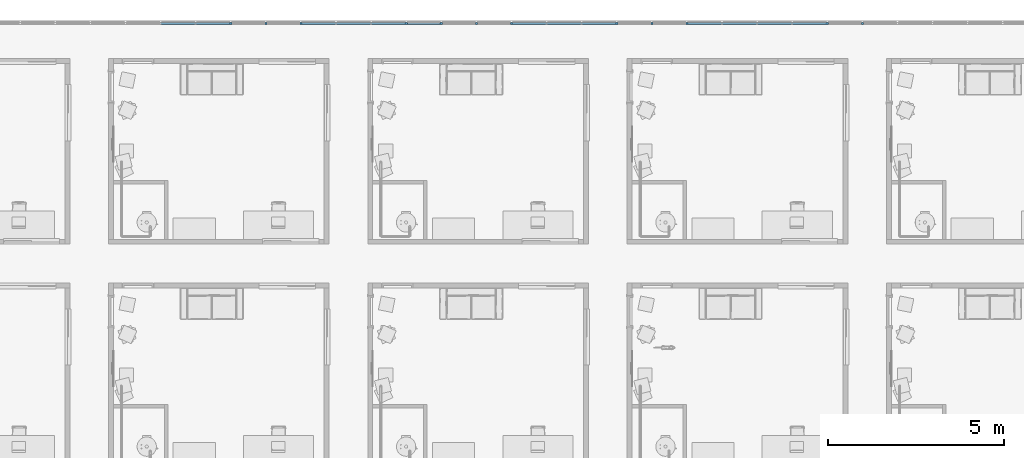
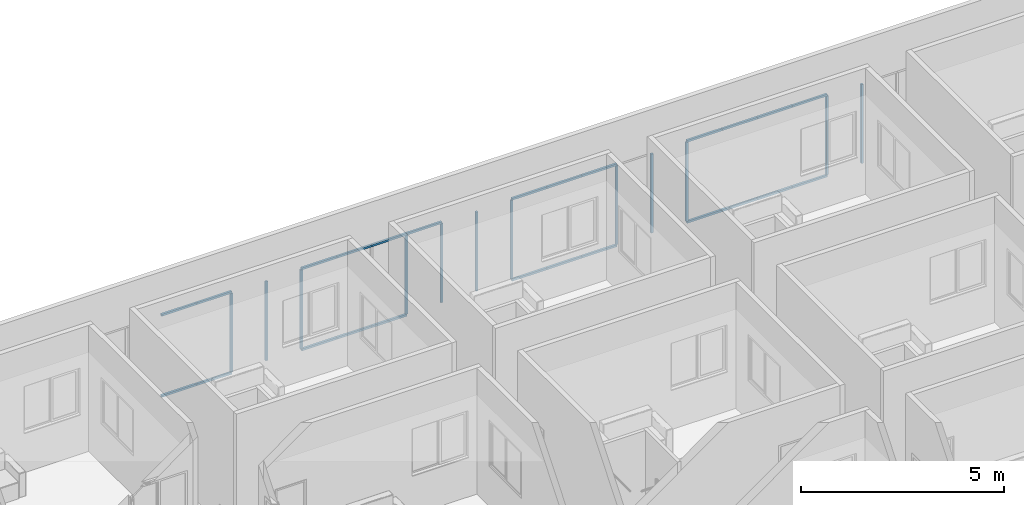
# One storey, part 3 of 71: 37 members, 1 element without a shape of its own.
"""IFC4 building model written with IfcOpenShell, lengths in centimetres."""

from ifc_helpers import new_model, entity, si_unit, converted_unit, derived_unit, direction, frame, origin, place, context, subcontext, project, spatial, indexed_curve, outline, extrude, source, transform, mapped, material, type_object, type_shapes, element, aggregate, save


model = new_model("IFC4")

# Units and contexts
model_context = context("Model", 3, precision=0.001, world=origin(), true_north=direction((6.123233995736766e-17, 1.0)))
body_context = subcontext(model_context, "Body", "Model", "MODEL_VIEW")
ifc_project = project(units=[si_unit("LENGTHUNIT", "METRE", prefix="CENTI"), si_unit("AREAUNIT", "SQUARE_METRE"), si_unit("VOLUMEUNIT", "CUBIC_METRE"), derived_unit("THERMALTRANSMITTANCEUNIT", [(si_unit("MASSUNIT", "GRAM", prefix="KILO"), 1), (si_unit("THERMODYNAMICTEMPERATUREUNIT", "KELVIN"), -1), (si_unit("TIMEUNIT", "SECOND"), -3)]), converted_unit("PLANEANGLEUNIT", "DEGREE", entity("IfcPlaneAngleMeasure", 0.017453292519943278), si_unit("PLANEANGLEUNIT", "RADIAN"), dimensions=[0, 0, 0, 0, 0, 0, 0]), derived_unit("MASSDENSITYUNIT", [(si_unit("MASSUNIT", "GRAM", prefix="KILO"), 1), (si_unit("LENGTHUNIT", "METRE"), -3)]), derived_unit("VAPORPERMEABILITYUNIT", [(si_unit("LENGTHUNIT", "METRE"), -1), (si_unit("TIMEUNIT", "SECOND"), 1)]), derived_unit("USERDEFINED", [(si_unit("MASSUNIT", "GRAM", prefix="KILO"), 1), (si_unit("TIMEUNIT", "SECOND"), -3), (si_unit("LENGTHUNIT", "METRE"), 3), (si_unit("ELECTRICCURRENTUNIT", "AMPERE"), -2)]), derived_unit("SPECIFICHEATCAPACITYUNIT", [(si_unit("THERMODYNAMICTEMPERATUREUNIT", "KELVIN"), -1), (si_unit("LENGTHUNIT", "METRE"), 2), (si_unit("TIMEUNIT", "SECOND"), -2)]), derived_unit("THERMALCONDUCTANCEUNIT", [(si_unit("MASSUNIT", "GRAM", prefix="KILO"), 1), (si_unit("THERMODYNAMICTEMPERATUREUNIT", "KELVIN"), -1), (si_unit("TIMEUNIT", "SECOND"), -3), (si_unit("LENGTHUNIT", "METRE"), 1)]), si_unit("PRESSUREUNIT", "PASCAL"), derived_unit("MODULUSOFELASTICITYUNIT", [(si_unit("MASSUNIT", "GRAM", prefix="KILO"), 1), (si_unit("LENGTHUNIT", "METRE"), -1), (si_unit("TIMEUNIT", "SECOND"), -2)]), derived_unit("THERMALEXPANSIONCOEFFICIENTUNIT", [(si_unit("THERMODYNAMICTEMPERATUREUNIT", "KELVIN"), -1)])], contexts=[model_context])

# Site, building, storey
site_placement = place(None, origin())
site = spatial("IfcSite", under=ifc_project, at=site_placement, Name="Default", CompositionType="ELEMENT")
building_placement = place(site_placement, origin())
building = spatial("IfcBuilding", under=site, at=building_placement, Name="IDS Escape Game Building", CompositionType="ELEMENT")
storey_placement = place(building_placement, frame((0.0, 0.0, 400.0)))
storey = spatial("IfcBuildingStorey", under=building, at=storey_placement, Name="01_First Floor", CompositionType="ELEMENT", Elevation=399.99999999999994)

# Curtain wall, members
curtain_wall_type = type_object("IfcCurtainWallType", Name="Curtain Wall:ARC_31.3_CWA_LIB_bandraam vast 100cm - profiel 60x60_gen_BERSnl", PredefinedType="NOTDEFINED")
curtain_wall_placement = place(storey_placement, frame((0.0, 0.0, -400.0)))
curtain_wall = element("IfcCurtainWall", 1, at=curtain_wall_placement, inside=storey, type_object=curtain_wall_type, Name="Curtain Wall:ARC_31.3_CWA_LIB_bandraam vast 100cm - profiel 60x60_gen_BERSnl", ObjectType="Curtain Wall:ARC_31.3_CWA_LIB_bandraam vast 100cm - profiel 60x60_gen_BERSnl", PredefinedType="NOTDEFINED")
ifc_material = material(Name="<Unnamed>")
member_type_1 = type_object("IfcMemberType", Name="Rectangular Mullion:30-_Stijl_Rechthoek_Midden_B60xD60", PredefinedType="MULLION", material=ifc_material)
shared_shape_1 = source(origin(), body_context, "Body", "SweptSolid", [
    extrude(outline(indexed_curve([(-3.0, -3.0), (3.0, -3.0), (3.0, 3.0), (-3.0, 3.0), (-3.0, -3.0)], self_intersect=False)), frame((-3.0, 3.0, -99.84313725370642), z_axis=(0.0, 0.0, 1.0), x_axis=(-1.0, 0.0, 0.0)), (0.0, 0.0, 1.0), 99.84313725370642),
])
type_shapes(member_type_1, [shared_shape_1])
member_1_placement = place(curtain_wall_placement, frame((1717.176470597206, 3182.0, 650.0), z_axis=(1.0, 0.0, 0.0), x_axis=(0.0, 0.0, 1.0)))
member_1 = element("IfcMember", 2, at=member_1_placement, type_object=member_type_1, material=ifc_material, Name="Rectangular Mullion:30-_Stijl_Rechthoek_Midden_B60xD60", ObjectType="Rectangular Mullion:30-_Stijl_Rechthoek_Midden_B60xD60", PredefinedType="MULLION", context=body_context, shape_type="MappedRepresentation", body=[
    mapped(shared_shape_1, transform((0.0, 0.0, 0.0), scale=1.0)),
])
member_2_placement = place(curtain_wall_placement, frame((1817.0196078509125, 3182.0, 650.0), z_axis=(1.0, 0.0, 0.0), x_axis=(0.0, 0.0, 1.0)))
member_2 = element("IfcMember", 3, at=member_2_placement, type_object=member_type_1, material=ifc_material, Name="Rectangular Mullion:30-_Stijl_Rechthoek_Midden_B60xD60", ObjectType="Rectangular Mullion:30-_Stijl_Rechthoek_Midden_B60xD60", PredefinedType="MULLION", context=body_context, shape_type="MappedRepresentation", body=[
    mapped(shared_shape_1, transform((0.0, 0.0, 0.0), scale=1.0)),
])
member_3_placement = place(curtain_wall_placement, frame((2116.549019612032, 3182.0, 650.0), z_axis=(1.0, 0.0, 0.0), x_axis=(0.0, 0.0, 1.0)))
member_3 = element("IfcMember", 4, at=member_3_placement, type_object=member_type_1, material=ifc_material, Name="Rectangular Mullion:30-_Stijl_Rechthoek_Midden_B60xD60", ObjectType="Rectangular Mullion:30-_Stijl_Rechthoek_Midden_B60xD60", PredefinedType="MULLION", context=body_context, shape_type="MappedRepresentation", body=[
    mapped(shared_shape_1, transform((0.0, 0.0, 0.0), scale=1.0)),
])
member_4_placement = place(curtain_wall_placement, frame((2216.392156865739, 3182.0, 650.0), z_axis=(1.0, 0.0, 0.0), x_axis=(0.0, 0.0, 1.0)))
member_4 = element("IfcMember", 5, at=member_4_placement, type_object=member_type_1, material=ifc_material, Name="Rectangular Mullion:30-_Stijl_Rechthoek_Midden_B60xD60", ObjectType="Rectangular Mullion:30-_Stijl_Rechthoek_Midden_B60xD60", PredefinedType="MULLION", context=body_context, shape_type="MappedRepresentation", body=[
    mapped(shared_shape_1, transform((0.0, 0.0, 0.0), scale=1.0)),
])
member_5_placement = place(curtain_wall_placement, frame((2316.235294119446, 3182.0, 650.0), z_axis=(1.0, 0.0, 0.0), x_axis=(0.0, 0.0, 1.0)))
member_5 = element("IfcMember", 6, at=member_5_placement, type_object=member_type_1, material=ifc_material, Name="Rectangular Mullion:30-_Stijl_Rechthoek_Midden_B60xD60", ObjectType="Rectangular Mullion:30-_Stijl_Rechthoek_Midden_B60xD60", PredefinedType="MULLION", context=body_context, shape_type="MappedRepresentation", body=[
    mapped(shared_shape_1, transform((0.0, 0.0, 0.0), scale=1.0)),
])
member_6_placement = place(curtain_wall_placement, frame((2416.0784313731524, 3182.0, 650.0), z_axis=(1.0, 0.0, 0.0), x_axis=(0.0, 0.0, 1.0)))
member_6 = element("IfcMember", 7, at=member_6_placement, type_object=member_type_1, material=ifc_material, Name="Rectangular Mullion:30-_Stijl_Rechthoek_Midden_B60xD60", ObjectType="Rectangular Mullion:30-_Stijl_Rechthoek_Midden_B60xD60", PredefinedType="MULLION", context=body_context, shape_type="MappedRepresentation", body=[
    mapped(shared_shape_1, transform((0.0, 0.0, 0.0), scale=1.0)),
])
member_7_placement = place(curtain_wall_placement, frame((2715.6078431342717, 3182.0, 650.0), z_axis=(1.0, 0.0, 0.0), x_axis=(0.0, 0.0, 1.0)))
member_7 = element("IfcMember", 8, at=member_7_placement, type_object=member_type_1, material=ifc_material, Name="Rectangular Mullion:30-_Stijl_Rechthoek_Midden_B60xD60", ObjectType="Rectangular Mullion:30-_Stijl_Rechthoek_Midden_B60xD60", PredefinedType="MULLION", context=body_context, shape_type="MappedRepresentation", body=[
    mapped(shared_shape_1, transform((0.0, 0.0, 0.0), scale=1.0)),
])
member_8_placement = place(curtain_wall_placement, frame((2815.4509803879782, 3182.0, 650.0), z_axis=(1.0, 0.0, 0.0), x_axis=(0.0, 0.0, 1.0)))
member_8 = element("IfcMember", 9, at=member_8_placement, type_object=member_type_1, material=ifc_material, Name="Rectangular Mullion:30-_Stijl_Rechthoek_Midden_B60xD60", ObjectType="Rectangular Mullion:30-_Stijl_Rechthoek_Midden_B60xD60", PredefinedType="MULLION", context=body_context, shape_type="MappedRepresentation", body=[
    mapped(shared_shape_1, transform((0.0, 0.0, 0.0), scale=1.0)),
])
member_9_placement = place(curtain_wall_placement, frame((2915.294117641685, 3182.0, 650.0), z_axis=(1.0, 0.0, 0.0), x_axis=(0.0, 0.0, 1.0)))
member_9 = element("IfcMember", 10, at=member_9_placement, type_object=member_type_1, material=ifc_material, Name="Rectangular Mullion:30-_Stijl_Rechthoek_Midden_B60xD60", ObjectType="Rectangular Mullion:30-_Stijl_Rechthoek_Midden_B60xD60", PredefinedType="MULLION", context=body_context, shape_type="MappedRepresentation", body=[
    mapped(shared_shape_1, transform((0.0, 0.0, 0.0), scale=1.0)),
])
member_10_placement = place(curtain_wall_placement, frame((3214.8235294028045, 3182.0, 650.0), z_axis=(1.0, 0.0, 0.0), x_axis=(0.0, 0.0, 1.0)))
member_10 = element("IfcMember", 11, at=member_10_placement, type_object=member_type_1, material=ifc_material, Name="Rectangular Mullion:30-_Stijl_Rechthoek_Midden_B60xD60", ObjectType="Rectangular Mullion:30-_Stijl_Rechthoek_Midden_B60xD60", PredefinedType="MULLION", context=body_context, shape_type="MappedRepresentation", body=[
    mapped(shared_shape_1, transform((0.0, 0.0, 0.0), scale=1.0)),
])
member_11_placement = place(curtain_wall_placement, frame((3314.666666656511, 3182.0, 650.0), z_axis=(1.0, 0.0, 0.0), x_axis=(0.0, 0.0, 1.0)))
member_11 = element("IfcMember", 12, at=member_11_placement, type_object=member_type_1, material=ifc_material, Name="Rectangular Mullion:30-_Stijl_Rechthoek_Midden_B60xD60", ObjectType="Rectangular Mullion:30-_Stijl_Rechthoek_Midden_B60xD60", PredefinedType="MULLION", context=body_context, shape_type="MappedRepresentation", body=[
    mapped(shared_shape_1, transform((0.0, 0.0, 0.0), scale=1.0)),
])
member_12_placement = place(curtain_wall_placement, frame((3414.509803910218, 3182.0, 650.0), z_axis=(1.0, 0.0, 0.0), x_axis=(0.0, 0.0, 1.0)))
member_12 = element("IfcMember", 13, at=member_12_placement, type_object=member_type_1, material=ifc_material, Name="Rectangular Mullion:30-_Stijl_Rechthoek_Midden_B60xD60", ObjectType="Rectangular Mullion:30-_Stijl_Rechthoek_Midden_B60xD60", PredefinedType="MULLION", context=body_context, shape_type="MappedRepresentation", body=[
    mapped(shared_shape_1, transform((0.0, 0.0, 0.0), scale=1.0)),
])
member_13_placement = place(curtain_wall_placement, frame((3514.3529411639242, 3182.0, 650.0), z_axis=(1.0, 0.0, 0.0), x_axis=(0.0, 0.0, 1.0)))
member_13 = element("IfcMember", 14, at=member_13_placement, type_object=member_type_1, material=ifc_material, Name="Rectangular Mullion:30-_Stijl_Rechthoek_Midden_B60xD60", ObjectType="Rectangular Mullion:30-_Stijl_Rechthoek_Midden_B60xD60", PredefinedType="MULLION", context=body_context, shape_type="MappedRepresentation", body=[
    mapped(shared_shape_1, transform((0.0, 0.0, 0.0), scale=1.0)),
])
member_type_2 = type_object("IfcMemberType", Name="Rectangular Mullion:30-_Stijl_Rechthoek_Midden_B60xD60", PredefinedType="MULLION", material=ifc_material)
shared_shape_2 = source(origin(), body_context, "Body", "SweptSolid", [
    extrude(outline(indexed_curve([(-3.0, -3.0), (3.0, -3.0), (3.0, 3.0), (-3.0, 3.0), (-3.0, -3.0)], self_intersect=False)), frame((-3.0, 3.0, -99.84313725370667), z_axis=(0.0, 0.0, 1.0), x_axis=(-1.0, 0.0, 0.0)), (0.0, 0.0, 1.0), 99.84313725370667),
])
type_shapes(member_type_2, [shared_shape_2])
member_14_placement = place(curtain_wall_placement, frame((1617.3333333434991, 3182.0, 400.0), z_axis=(-1.0, 0.0, 0.0), x_axis=(0.0, 0.0, -1.0)))
member_14 = element("IfcMember", 15, at=member_14_placement, type_object=member_type_2, material=ifc_material, Name="Rectangular Mullion:30-_Stijl_Rechthoek_Midden_B60xD60", ObjectType="Rectangular Mullion:30-_Stijl_Rechthoek_Midden_B60xD60", PredefinedType="MULLION", context=body_context, shape_type="MappedRepresentation", body=[
    mapped(shared_shape_2, transform((0.0, 0.0, 0.0), scale=1.0)),
])
member_15_placement = place(curtain_wall_placement, frame((1717.176470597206, 3182.0, 400.0), z_axis=(-1.0, 0.0, 0.0), x_axis=(0.0, 0.0, -1.0)))
member_15 = element("IfcMember", 16, at=member_15_placement, type_object=member_type_2, material=ifc_material, Name="Rectangular Mullion:30-_Stijl_Rechthoek_Midden_B60xD60", ObjectType="Rectangular Mullion:30-_Stijl_Rechthoek_Midden_B60xD60", PredefinedType="MULLION", context=body_context, shape_type="MappedRepresentation", body=[
    mapped(shared_shape_2, transform((0.0, 0.0, 0.0), scale=1.0)),
])
member_16_placement = place(curtain_wall_placement, frame((2016.7058823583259, 3182.0, 400.0), z_axis=(-1.0, 0.0, 0.0), x_axis=(0.0, 0.0, -1.0)))
member_16 = element("IfcMember", 17, at=member_16_placement, type_object=member_type_2, material=ifc_material, Name="Rectangular Mullion:30-_Stijl_Rechthoek_Midden_B60xD60", ObjectType="Rectangular Mullion:30-_Stijl_Rechthoek_Midden_B60xD60", PredefinedType="MULLION", context=body_context, shape_type="MappedRepresentation", body=[
    mapped(shared_shape_2, transform((0.0, 0.0, 0.0), scale=1.0)),
])
member_17_placement = place(curtain_wall_placement, frame((2116.5490196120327, 3182.0, 400.0), z_axis=(-1.0, 0.0, 0.0), x_axis=(0.0, 0.0, -1.0)))
member_17 = element("IfcMember", 18, at=member_17_placement, type_object=member_type_2, material=ifc_material, Name="Rectangular Mullion:30-_Stijl_Rechthoek_Midden_B60xD60", ObjectType="Rectangular Mullion:30-_Stijl_Rechthoek_Midden_B60xD60", PredefinedType="MULLION", context=body_context, shape_type="MappedRepresentation", body=[
    mapped(shared_shape_2, transform((0.0, 0.0, 0.0), scale=1.0)),
])
member_18_placement = place(curtain_wall_placement, frame((2216.3921568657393, 3182.0, 400.0), z_axis=(-1.0, 0.0, 0.0), x_axis=(0.0, 0.0, -1.0)))
member_18 = element("IfcMember", 19, at=member_18_placement, type_object=member_type_2, material=ifc_material, Name="Rectangular Mullion:30-_Stijl_Rechthoek_Midden_B60xD60", ObjectType="Rectangular Mullion:30-_Stijl_Rechthoek_Midden_B60xD60", PredefinedType="MULLION", context=body_context, shape_type="MappedRepresentation", body=[
    mapped(shared_shape_2, transform((0.0, 0.0, 0.0), scale=1.0)),
])
member_19_placement = place(curtain_wall_placement, frame((2615.764705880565, 3182.0, 400.0), z_axis=(-1.0, 0.0, 0.0), x_axis=(0.0, 0.0, -1.0)))
member_19 = element("IfcMember", 20, at=member_19_placement, type_object=member_type_2, material=ifc_material, Name="Rectangular Mullion:30-_Stijl_Rechthoek_Midden_B60xD60", ObjectType="Rectangular Mullion:30-_Stijl_Rechthoek_Midden_B60xD60", PredefinedType="MULLION", context=body_context, shape_type="MappedRepresentation", body=[
    mapped(shared_shape_2, transform((0.0, 0.0, 0.0), scale=1.0)),
])
member_20_placement = place(curtain_wall_placement, frame((2715.6078431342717, 3182.0, 400.0), z_axis=(-1.0, 0.0, 0.0), x_axis=(0.0, 0.0, -1.0)))
member_20 = element("IfcMember", 21, at=member_20_placement, type_object=member_type_2, material=ifc_material, Name="Rectangular Mullion:30-_Stijl_Rechthoek_Midden_B60xD60", ObjectType="Rectangular Mullion:30-_Stijl_Rechthoek_Midden_B60xD60", PredefinedType="MULLION", context=body_context, shape_type="MappedRepresentation", body=[
    mapped(shared_shape_2, transform((0.0, 0.0, 0.0), scale=1.0)),
])
member_21_placement = place(curtain_wall_placement, frame((2815.4509803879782, 3182.0, 400.0), z_axis=(-1.0, 0.0, 0.0), x_axis=(0.0, 0.0, -1.0)))
member_21 = element("IfcMember", 22, at=member_21_placement, type_object=member_type_2, material=ifc_material, Name="Rectangular Mullion:30-_Stijl_Rechthoek_Midden_B60xD60", ObjectType="Rectangular Mullion:30-_Stijl_Rechthoek_Midden_B60xD60", PredefinedType="MULLION", context=body_context, shape_type="MappedRepresentation", body=[
    mapped(shared_shape_2, transform((0.0, 0.0, 0.0), scale=1.0)),
])
member_22_placement = place(curtain_wall_placement, frame((3114.980392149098, 3182.0, 400.0), z_axis=(-1.0, 0.0, 0.0), x_axis=(0.0, 0.0, -1.0)))
member_22 = element("IfcMember", 23, at=member_22_placement, type_object=member_type_2, material=ifc_material, Name="Rectangular Mullion:30-_Stijl_Rechthoek_Midden_B60xD60", ObjectType="Rectangular Mullion:30-_Stijl_Rechthoek_Midden_B60xD60", PredefinedType="MULLION", context=body_context, shape_type="MappedRepresentation", body=[
    mapped(shared_shape_2, transform((0.0, 0.0, 0.0), scale=1.0)),
])
member_23_placement = place(curtain_wall_placement, frame((3214.8235294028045, 3182.0, 400.0), z_axis=(-1.0, 0.0, 0.0), x_axis=(0.0, 0.0, -1.0)))
member_23 = element("IfcMember", 24, at=member_23_placement, type_object=member_type_2, material=ifc_material, Name="Rectangular Mullion:30-_Stijl_Rechthoek_Midden_B60xD60", ObjectType="Rectangular Mullion:30-_Stijl_Rechthoek_Midden_B60xD60", PredefinedType="MULLION", context=body_context, shape_type="MappedRepresentation", body=[
    mapped(shared_shape_2, transform((0.0, 0.0, 0.0), scale=1.0)),
])
member_24_placement = place(curtain_wall_placement, frame((3314.666666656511, 3182.0, 400.0), z_axis=(-1.0, 0.0, 0.0), x_axis=(0.0, 0.0, -1.0)))
member_24 = element("IfcMember", 25, at=member_24_placement, type_object=member_type_2, material=ifc_material, Name="Rectangular Mullion:30-_Stijl_Rechthoek_Midden_B60xD60", ObjectType="Rectangular Mullion:30-_Stijl_Rechthoek_Midden_B60xD60", PredefinedType="MULLION", context=body_context, shape_type="MappedRepresentation", body=[
    mapped(shared_shape_2, transform((0.0, 0.0, 0.0), scale=1.0)),
])
member_25_placement = place(curtain_wall_placement, frame((3414.5098039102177, 3182.0, 400.0), z_axis=(-1.0, 0.0, 0.0), x_axis=(0.0, 0.0, -1.0)))
member_25 = element("IfcMember", 26, at=member_25_placement, type_object=member_type_2, material=ifc_material, Name="Rectangular Mullion:30-_Stijl_Rechthoek_Midden_B60xD60", ObjectType="Rectangular Mullion:30-_Stijl_Rechthoek_Midden_B60xD60", PredefinedType="MULLION", context=body_context, shape_type="MappedRepresentation", body=[
    mapped(shared_shape_2, transform((0.0, 0.0, 0.0), scale=1.0)),
])
member_type_3 = type_object("IfcMemberType", Name="Rectangular Mullion:30-_Stijl_Rechthoek_Midden_B60xD60", PredefinedType="MULLION", material=ifc_material)
shared_shape_3 = source(origin(), body_context, "Body", "SweptSolid", [
    extrude(outline(indexed_curve([(-3.0, -3.0), (3.0, -3.0), (3.0, 3.0), (-3.0, 3.0), (-3.0, -3.0)], self_intersect=False)), frame((0.0, 3.0, -238.0), z_axis=(0.0, 0.0, 1.0), x_axis=(-1.0, 0.0, 0.0)), (0.0, 0.0, 1.0), 238.00000000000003),
])
type_shapes(member_type_3, [shared_shape_3])
member_26_placement = place(curtain_wall_placement, frame((1817.0196078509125, 3182.0, 406.0), z_axis=(0.0, 0.0, -1.0), x_axis=(1.0, 0.0, 0.0)))
member_26 = element("IfcMember", 27, at=member_26_placement, type_object=member_type_3, material=ifc_material, Name="Rectangular Mullion:30-_Stijl_Rechthoek_Midden_B60xD60", ObjectType="Rectangular Mullion:30-_Stijl_Rechthoek_Midden_B60xD60", PredefinedType="MULLION", context=body_context, shape_type="MappedRepresentation", body=[
    mapped(shared_shape_3, transform((0.0, 0.0, 0.0), scale=1.0)),
])
member_27_placement = place(curtain_wall_placement, frame((1916.8627451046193, 3182.0, 406.0), z_axis=(0.0, 0.0, -1.0), x_axis=(1.0, 0.0, 0.0)))
member_27 = element("IfcMember", 28, at=member_27_placement, type_object=member_type_3, material=ifc_material, Name="Rectangular Mullion:30-_Stijl_Rechthoek_Midden_B60xD60", ObjectType="Rectangular Mullion:30-_Stijl_Rechthoek_Midden_B60xD60", PredefinedType="MULLION", context=body_context, shape_type="MappedRepresentation", body=[
    mapped(shared_shape_3, transform((0.0, 0.0, 0.0), scale=1.0)),
])
member_28_placement = place(curtain_wall_placement, frame((2016.7058823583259, 3182.0, 406.0), z_axis=(0.0, 0.0, -1.0), x_axis=(1.0, 0.0, 0.0)))
member_28 = element("IfcMember", 29, at=member_28_placement, type_object=member_type_3, material=ifc_material, Name="Rectangular Mullion:30-_Stijl_Rechthoek_Midden_B60xD60", ObjectType="Rectangular Mullion:30-_Stijl_Rechthoek_Midden_B60xD60", PredefinedType="MULLION", context=body_context, shape_type="MappedRepresentation", body=[
    mapped(shared_shape_3, transform((0.0, 0.0, 0.0), scale=1.0)),
])
member_29_placement = place(curtain_wall_placement, frame((2316.235294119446, 3182.0, 406.0), z_axis=(0.0, 0.0, -1.0), x_axis=(1.0, 0.0, 0.0)))
member_29 = element("IfcMember", 30, at=member_29_placement, type_object=member_type_3, material=ifc_material, Name="Rectangular Mullion:30-_Stijl_Rechthoek_Midden_B60xD60", ObjectType="Rectangular Mullion:30-_Stijl_Rechthoek_Midden_B60xD60", PredefinedType="MULLION", context=body_context, shape_type="MappedRepresentation", body=[
    mapped(shared_shape_3, transform((0.0, 0.0, 0.0), scale=1.0)),
])
member_30_placement = place(curtain_wall_placement, frame((2416.0784313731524, 3182.0, 406.0), z_axis=(0.0, 0.0, -1.0), x_axis=(1.0, 0.0, 0.0)))
member_30 = element("IfcMember", 31, at=member_30_placement, type_object=member_type_3, material=ifc_material, Name="Rectangular Mullion:30-_Stijl_Rechthoek_Midden_B60xD60", ObjectType="Rectangular Mullion:30-_Stijl_Rechthoek_Midden_B60xD60", PredefinedType="MULLION", context=body_context, shape_type="MappedRepresentation", body=[
    mapped(shared_shape_3, transform((0.0, 0.0, 0.0), scale=1.0)),
])
member_31_placement = place(curtain_wall_placement, frame((2515.9215686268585, 3182.0, 406.0), z_axis=(0.0, 0.0, -1.0), x_axis=(1.0, 0.0, 0.0)))
member_31 = element("IfcMember", 32, at=member_31_placement, type_object=member_type_3, material=ifc_material, Name="Rectangular Mullion:30-_Stijl_Rechthoek_Midden_B60xD60", ObjectType="Rectangular Mullion:30-_Stijl_Rechthoek_Midden_B60xD60", PredefinedType="MULLION", context=body_context, shape_type="MappedRepresentation", body=[
    mapped(shared_shape_3, transform((0.0, 0.0, 0.0), scale=1.0)),
])
member_32_placement = place(curtain_wall_placement, frame((2615.764705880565, 3182.0, 406.0), z_axis=(0.0, 0.0, -1.0), x_axis=(1.0, 0.0, 0.0)))
member_32 = element("IfcMember", 33, at=member_32_placement, type_object=member_type_3, material=ifc_material, Name="Rectangular Mullion:30-_Stijl_Rechthoek_Midden_B60xD60", ObjectType="Rectangular Mullion:30-_Stijl_Rechthoek_Midden_B60xD60", PredefinedType="MULLION", context=body_context, shape_type="MappedRepresentation", body=[
    mapped(shared_shape_3, transform((0.0, 0.0, 0.0), scale=1.0)),
])
member_33_placement = place(curtain_wall_placement, frame((2915.294117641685, 3182.0, 406.0), z_axis=(0.0, 0.0, -1.0), x_axis=(1.0, 0.0, 0.0)))
member_33 = element("IfcMember", 34, at=member_33_placement, type_object=member_type_3, material=ifc_material, Name="Rectangular Mullion:30-_Stijl_Rechthoek_Midden_B60xD60", ObjectType="Rectangular Mullion:30-_Stijl_Rechthoek_Midden_B60xD60", PredefinedType="MULLION", context=body_context, shape_type="MappedRepresentation", body=[
    mapped(shared_shape_3, transform((0.0, 0.0, 0.0), scale=1.0)),
])
member_34_placement = place(curtain_wall_placement, frame((3015.1372548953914, 3182.0, 406.0), z_axis=(0.0, 0.0, -1.0), x_axis=(1.0, 0.0, 0.0)))
member_34 = element("IfcMember", 35, at=member_34_placement, type_object=member_type_3, material=ifc_material, Name="Rectangular Mullion:30-_Stijl_Rechthoek_Midden_B60xD60", ObjectType="Rectangular Mullion:30-_Stijl_Rechthoek_Midden_B60xD60", PredefinedType="MULLION", context=body_context, shape_type="MappedRepresentation", body=[
    mapped(shared_shape_3, transform((0.0, 0.0, 0.0), scale=1.0)),
])
member_35_placement = place(curtain_wall_placement, frame((3114.980392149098, 3182.0, 406.0), z_axis=(0.0, 0.0, -1.0), x_axis=(1.0, 0.0, 0.0)))
member_35 = element("IfcMember", 36, at=member_35_placement, type_object=member_type_3, material=ifc_material, Name="Rectangular Mullion:30-_Stijl_Rechthoek_Midden_B60xD60", ObjectType="Rectangular Mullion:30-_Stijl_Rechthoek_Midden_B60xD60", PredefinedType="MULLION", context=body_context, shape_type="MappedRepresentation", body=[
    mapped(shared_shape_3, transform((0.0, 0.0, 0.0), scale=1.0)),
])
member_36_placement = place(curtain_wall_placement, frame((3514.3529411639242, 3182.0, 406.0), z_axis=(0.0, 0.0, -1.0), x_axis=(1.0, 0.0, 0.0)))
member_36 = element("IfcMember", 37, at=member_36_placement, type_object=member_type_3, material=ifc_material, Name="Rectangular Mullion:30-_Stijl_Rechthoek_Midden_B60xD60", ObjectType="Rectangular Mullion:30-_Stijl_Rechthoek_Midden_B60xD60", PredefinedType="MULLION", context=body_context, shape_type="MappedRepresentation", body=[
    mapped(shared_shape_3, transform((0.0, 0.0, 0.0), scale=1.0)),
])
member_37_placement = place(curtain_wall_placement, frame((3614.196078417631, 3182.0, 406.0), z_axis=(0.0, 0.0, -1.0), x_axis=(1.0, 0.0, 0.0)))
member_37 = element("IfcMember", 38, at=member_37_placement, type_object=member_type_3, material=ifc_material, Name="Rectangular Mullion:30-_Stijl_Rechthoek_Midden_B60xD60", ObjectType="Rectangular Mullion:30-_Stijl_Rechthoek_Midden_B60xD60", PredefinedType="MULLION", context=body_context, shape_type="MappedRepresentation", body=[
    mapped(shared_shape_3, transform((0.0, 0.0, 0.0), scale=1.0)),
])
aggregate(curtain_wall, [member_1, member_2, member_3, member_4, member_5, member_6, member_7, member_8, member_9, member_10, member_11, member_12, member_13, member_14, member_15, member_16, member_17, member_18, member_19, member_20, member_21, member_22, member_23, member_24, member_25, member_26, member_27, member_28, member_29, member_30, member_31, member_32, member_33, member_34, member_35, member_36, member_37])

save(model, "model.ifc")
